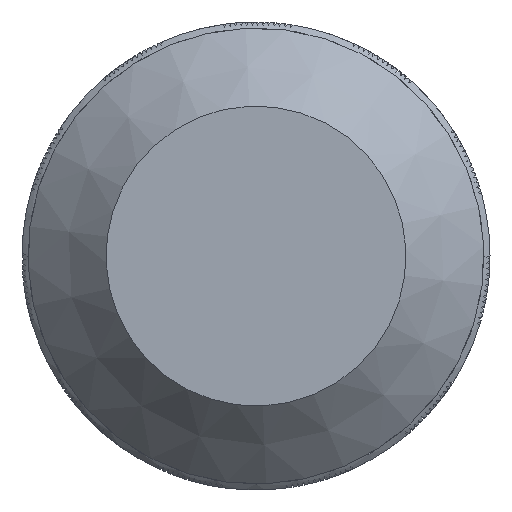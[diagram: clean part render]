
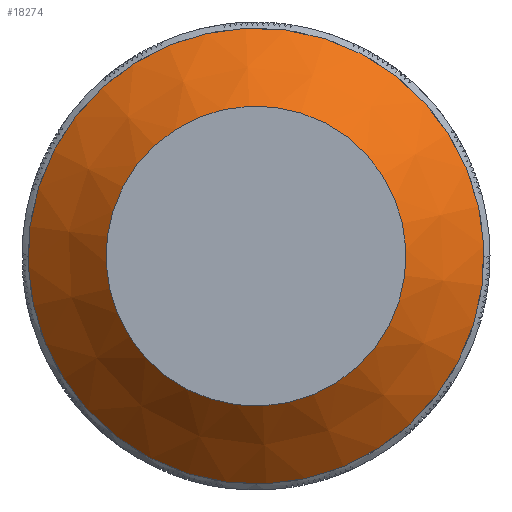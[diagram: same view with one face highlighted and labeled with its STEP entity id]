
A CAD part, left-side view. The second image highlights one B-rep face of the part: STEP entity #18274.
In plain terms, the highlighted conical face has half-angle 45 degrees and reference radius 31.5 mm.
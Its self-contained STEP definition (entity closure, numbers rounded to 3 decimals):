
#3221=CONICAL_SURFACE('',#19281,31.5,45.);
#3553=FACE_BOUND('',#4605,.T.);
#3604=FACE_OUTER_BOUND('',#4604,.T.);
#4604=EDGE_LOOP('',(#11004));
#4605=EDGE_LOOP('',(#11005));
#5604=CIRCLE('',#19278,25.);
#5605=CIRCLE('',#19280,38.);
#6252=VERTEX_POINT('',#25244);
#6253=VERTEX_POINT('',#25247);
#8152=EDGE_CURVE('',#6252,#6252,#5604,.T.);
#8153=EDGE_CURVE('',#6253,#6253,#5605,.T.);
#11004=ORIENTED_EDGE('',*,*,#8153,.F.);
#11005=ORIENTED_EDGE('',*,*,#8152,.T.);
#18274=ADVANCED_FACE('',(#3604,#3553),#3221,.T.);
#19278=AXIS2_PLACEMENT_3D('',#25245,#20973,#20974);
#19280=AXIS2_PLACEMENT_3D('',#25248,#20977,#20978);
#19281=AXIS2_PLACEMENT_3D('',#25249,#20979,#20980);
#20973=DIRECTION('center_axis',(1.,0.,0.));
#20974=DIRECTION('ref_axis',(0.,0.976,-0.218));
#20977=DIRECTION('center_axis',(1.,0.,0.));
#20978=DIRECTION('ref_axis',(0.,0.976,-0.218));
#20979=DIRECTION('center_axis',(1.,0.,0.));
#20980=DIRECTION('ref_axis',(0.,0.976,-0.218));
#25244=CARTESIAN_POINT('',(-30.69,9.36,-5.439));
#25245=CARTESIAN_POINT('Origin',(-30.69,-15.041,0.));
#25247=CARTESIAN_POINT('',(-17.69,22.049,-8.268));
#25248=CARTESIAN_POINT('Origin',(-17.69,-15.041,0.));
#25249=CARTESIAN_POINT('Origin',(-24.19,-15.041,0.));
